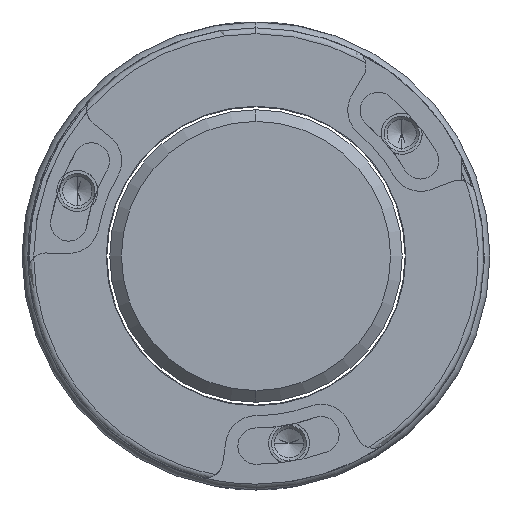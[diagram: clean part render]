
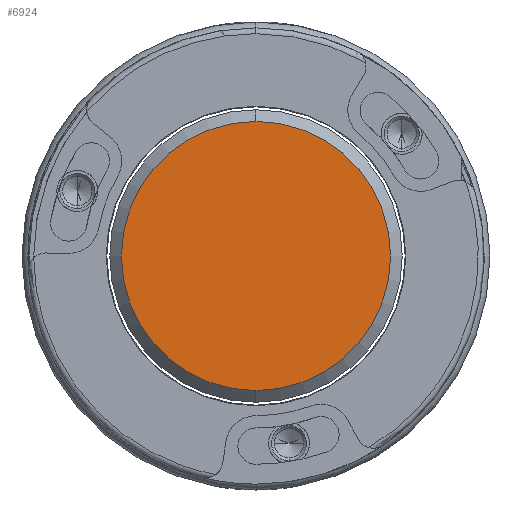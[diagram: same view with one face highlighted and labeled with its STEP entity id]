
A CAD part, left-side view. The second image highlights one B-rep face of the part: STEP entity #6924.
In plain terms, the highlighted planar face has unit normal (-1, 0, 0).
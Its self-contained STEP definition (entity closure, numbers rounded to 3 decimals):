
#215 = ORIENTED_EDGE ( 'NONE', *, *, #3376, .T. ) ;
#850 = DIRECTION ( 'NONE',  ( -1., 0., 0. ) ) ;
#892 = EDGE_CURVE ( 'NONE', #6408, #4396, #918, .T. ) ;
#918 = CIRCLE ( 'NONE', #6750, 11.5 ) ;
#1703 = AXIS2_PLACEMENT_3D ( 'NONE', #3171, #4792, #5384 ) ;
#1736 = DIRECTION ( 'NONE',  ( -1., 0., 0. ) ) ;
#2527 = DIRECTION ( 'NONE',  ( 0., 0., 1. ) ) ;
#3171 = CARTESIAN_POINT ( 'NONE',  ( -10., 0., 0. ) ) ;
#3376 = EDGE_CURVE ( 'NONE', #4396, #6408, #7008, .T. ) ;
#3615 = CARTESIAN_POINT ( 'NONE',  ( -10., 0., 0. ) ) ;
#4158 = EDGE_LOOP ( 'NONE', ( #215, #6577 ) ) ;
#4396 = VERTEX_POINT ( 'NONE', #6935 ) ;
#4703 = CARTESIAN_POINT ( 'NONE',  ( -10., 0., 11.5 ) ) ;
#4786 = FACE_OUTER_BOUND ( 'NONE', #4158, .T. ) ;
#4792 = DIRECTION ( 'NONE',  ( -1., 0., 0. ) ) ;
#5095 = DIRECTION ( 'NONE',  ( 0., 0., 1. ) ) ;
#5384 = DIRECTION ( 'NONE',  ( 0., 0., 1. ) ) ;
#5698 = CARTESIAN_POINT ( 'NONE',  ( -10., 0., 0. ) ) ;
#5881 = PLANE ( 'NONE',  #6417 ) ;
#6408 = VERTEX_POINT ( 'NONE', #4703 ) ;
#6417 = AXIS2_PLACEMENT_3D ( 'NONE', #3615, #850, #2527 ) ;
#6577 = ORIENTED_EDGE ( 'NONE', *, *, #892, .T. ) ;
#6750 = AXIS2_PLACEMENT_3D ( 'NONE', #5698, #1736, #5095 ) ;
#6924 = ADVANCED_FACE ( 'NONE', ( #4786 ), #5881, .T. ) ;
#6935 = CARTESIAN_POINT ( 'NONE',  ( -10., 0., -11.5 ) ) ;
#7008 = CIRCLE ( 'NONE', #1703, 11.5 ) ;
